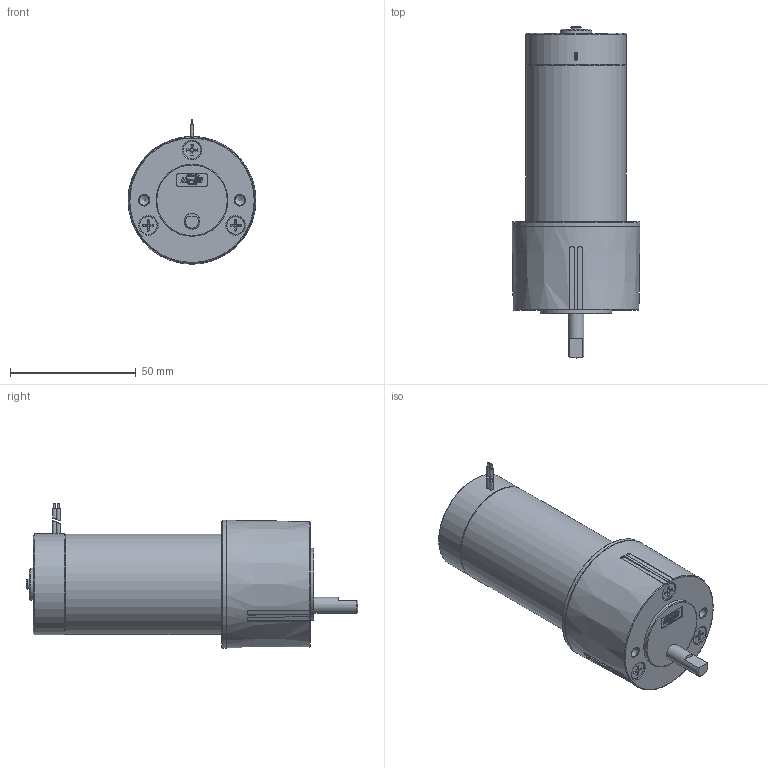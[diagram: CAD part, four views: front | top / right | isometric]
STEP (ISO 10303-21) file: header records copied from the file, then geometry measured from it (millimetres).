
FILE_DESCRIPTION((''),'2;1');
FILE_NAME('Z:\4_DC\새 폴더\RS4 SERIES\RS46ㅁㅁLㅁ.stp','2015-03-25T17:16:48',('kdhkdh'),(''),'Autodesk Inventor 2013','Autodesk Inventor 2013','');
FILE_SCHEMA(('AUTOMOTIVE_DESIGN { 1 0 10303 214 1 1 1 1 }'));
Length unit declared in the file: millimetre
Products named in the file (1): 부품2
Bounding box: 50.8 x 131.89 x 57.4 mm (x, y, z)
Volume: 165293.7 mm3; surface area: 20512.4 mm2
Topology: 2 solids, 4 shells, 365 faces, 946 edges, 615 vertices
Faces by surface type: plane 193, cylinder 105, cone 45, torus 22
Full cylindrical faces by diameter (mm): 0.76 x2, 1.56 x4, 2.8 x4, 3.5 x2, 3.7 x2, 3.962 x2, 4 x1, 6.34 x1, 6.9 x5, 7.8 x3, 12.7 x1, 28.575 x1, 40 x2, 50.8 x1
Entity records: 11520 total; most frequent: CARTESIAN_POINT 2953, ORIENTED_EDGE 1746, DIRECTION 1696, EDGE_CURVE 873, AXIS2_PLACEMENT_3D 633, VERTEX_POINT 596, EDGE_LOOP 453, VECTOR 430
